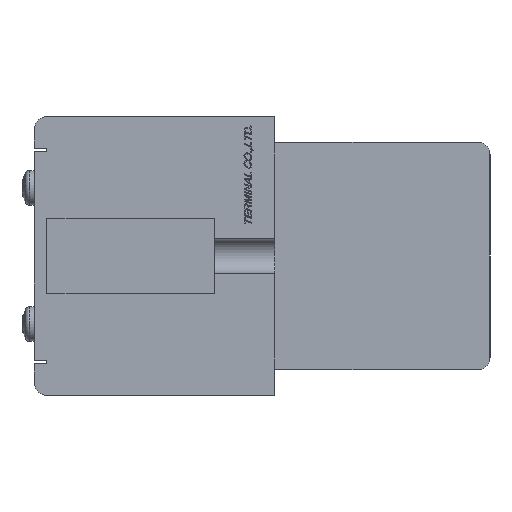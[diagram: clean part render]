
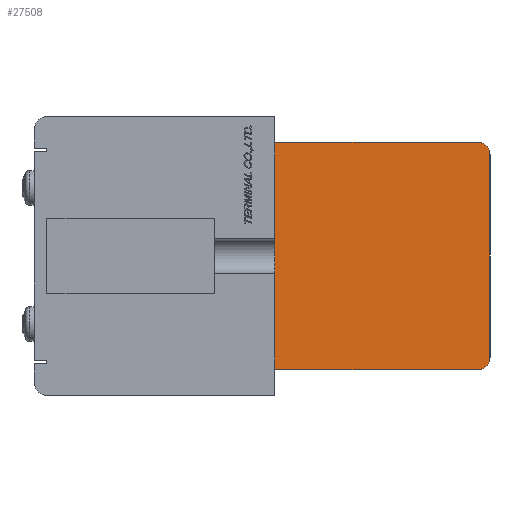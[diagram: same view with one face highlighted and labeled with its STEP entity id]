
A CAD part, left-side view. The second image highlights one B-rep face of the part: STEP entity #27508.
In plain terms, the highlighted planar face has unit normal (-1, 0, 0).
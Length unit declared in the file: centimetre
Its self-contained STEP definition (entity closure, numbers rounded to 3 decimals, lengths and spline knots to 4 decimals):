
#1772=VECTOR('',#31432,1.);
#1775=VECTOR('',#31440,1.);
#1776=VECTOR('',#31441,1.);
#1777=VECTOR('',#31442,1.);
#4545=LINE('',#38842,#1772);
#4548=LINE('',#38850,#1775);
#4549=LINE('',#38853,#1776);
#4550=LINE('',#38854,#1777);
#7276=VERTEX_POINT('',#38837);
#7277=VERTEX_POINT('',#38838);
#7278=VERTEX_POINT('',#38843);
#7279=VERTEX_POINT('',#38847);
#7280=VERTEX_POINT('',#38851);
#7281=VERTEX_POINT('',#38852);
#9419=CIRCLE('',#45359,0.2);
#9420=CIRCLE('',#45362,0.2);
#11323=EDGE_CURVE('',#7276,#7277,#9419,.T.);
#11326=EDGE_CURVE('',#7277,#7278,#4545,.T.);
#11328=EDGE_CURVE('',#7278,#7279,#9420,.T.);
#11330=EDGE_CURVE('',#7280,#7281,#4548,.T.);
#11331=EDGE_CURVE('',#7279,#7280,#4549,.T.);
#11332=EDGE_CURVE('',#7281,#7276,#4550,.T.);
#16961=ORIENTED_EDGE('',*,*,#11330,.F.);
#16962=ORIENTED_EDGE('',*,*,#11331,.F.);
#16963=ORIENTED_EDGE('',*,*,#11328,.F.);
#16964=ORIENTED_EDGE('',*,*,#11326,.F.);
#16965=ORIENTED_EDGE('',*,*,#11323,.F.);
#16966=ORIENTED_EDGE('',*,*,#11332,.F.);
#23830=EDGE_LOOP('',(#16961,#16962,#16963,#16964,#16965,#16966));
#25697=FACE_BOUND('',#23830,.T.);
#27508=ADVANCED_FACE('',(#25697),#29013,.F.);
#29013=PLANE('',#45363);
#31427=DIRECTION('',(1.,0.,0.));
#31428=DIRECTION('',(0.,0.,-0.2));
#31432=DIRECTION('',(0.,0.,-1.));
#31436=DIRECTION('',(1.,0.,0.));
#31437=DIRECTION('',(0.,0.,-0.2));
#31439=DIRECTION('',(1.,0.,0.));
#31440=DIRECTION('',(0.,0.,1.));
#31441=DIRECTION('',(0.,1.,0.));
#31442=DIRECTION('',(0.,-1.,0.));
#38836=CARTESIAN_POINT('',(-5.1,-3.2,1.6));
#38837=CARTESIAN_POINT('',(-5.1,-3.2,1.8));
#38838=CARTESIAN_POINT('',(-5.1,-3.4,1.6));
#38842=CARTESIAN_POINT('',(-5.1,-3.4,-1.6));
#38843=CARTESIAN_POINT('',(-5.1,-3.4,-1.6));
#38846=CARTESIAN_POINT('',(-5.1,-3.2,-1.6));
#38847=CARTESIAN_POINT('',(-5.1,-3.2,-1.8));
#38849=CARTESIAN_POINT('',(-5.1,-1.6784,0.));
#38850=CARTESIAN_POINT('',(-5.1,0.,1.8));
#38851=CARTESIAN_POINT('',(-5.1,0.,-1.8));
#38852=CARTESIAN_POINT('',(-5.1,0.,1.8));
#38853=CARTESIAN_POINT('',(-5.1,0.,-1.8));
#38854=CARTESIAN_POINT('',(-5.1,-3.2,1.8));
#45359=AXIS2_PLACEMENT_3D('',#38836,#31427,#31428);
#45362=AXIS2_PLACEMENT_3D('',#38846,#31436,#31437);
#45363=AXIS2_PLACEMENT_3D('',#38849,#31439,$);
